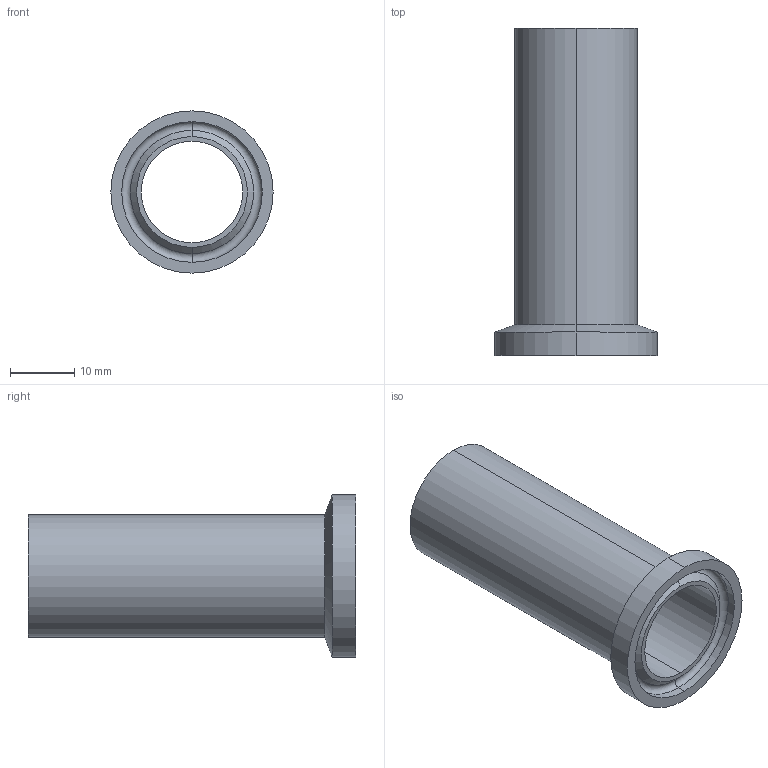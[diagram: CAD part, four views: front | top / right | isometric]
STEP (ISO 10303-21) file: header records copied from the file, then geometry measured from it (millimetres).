
FILE_DESCRIPTION (( 'STEP AP203' ), '1' );
FILE_NAME ('EG14AM7.75.STEP', '2018-05-01T13:03:43', ( 'vneprd' ), ( 'Microsoft' ), 'SwSTEP 2.0', 'SolidWorks 2014', '' );
FILE_SCHEMA (( 'CONFIG_CONTROL_DESIGN' ));
Length unit declared in the file: inch
Products named in the file (1): EG14AM7.75
Bounding box: 25.2 x 50.8 x 25.2 mm (x, y, z)
Volume: 5194 mm3; surface area: 6281.5 mm2
Topology: 1 solids, 1 shells, 17 faces, 34 edges, 20 vertices
Faces by surface type: cylinder 8, cone 4, plane 3, torus 2
Entity records: 529 total; most frequent: DIRECTION 92, CARTESIAN_POINT 72, ORIENTED_EDGE 68, AXIS2_PLACEMENT_3D 40, EDGE_CURVE 34, CIRCLE 22, EDGE_LOOP 20, VERTEX_POINT 20
